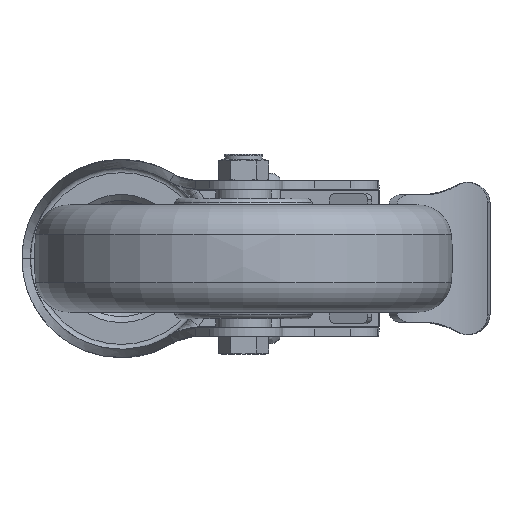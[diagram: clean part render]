
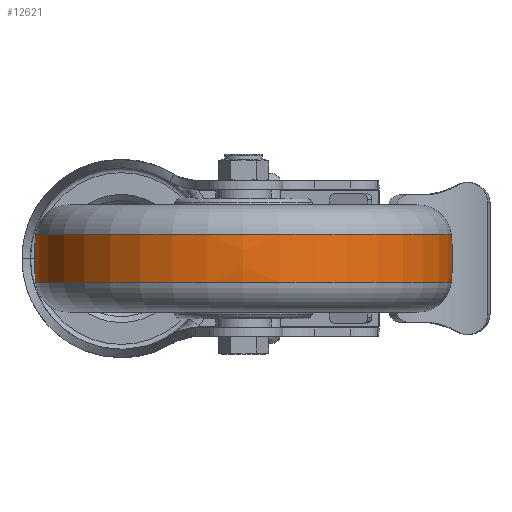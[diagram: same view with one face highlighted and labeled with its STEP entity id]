
A CAD part, front view. The second image highlights one B-rep face of the part: STEP entity #12621.
In plain terms, the highlighted free-form (B-spline) face has degree [3, 3] with [7, 4] control points.
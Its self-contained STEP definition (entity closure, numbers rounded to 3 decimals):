
#12013=CARTESIAN_POINT('',(-7.2,0.,0.));
#12014=DIRECTION('',(-1.,0.,0.));
#12015=DIRECTION('',(0.,1.,0.));
#12016=AXIS2_PLACEMENT_3D('',#12013,#12014,#12015);
#12028=CARTESIAN_POINT('',(0.,2.5,0.));
#12029=DIRECTION('',(0.,0.,1.));
#12030=DIRECTION('',(0.12,0.993,0.));
#12031=AXIS2_PLACEMENT_3D('',#12028,#12029,#12030);
#12033=CARTESIAN_POINT('',(0.,-2.5,0.));
#12034=DIRECTION('',(0.,0.,-1.));
#12035=DIRECTION('',(0.12,-0.993,0.));
#12036=AXIS2_PLACEMENT_3D('',#12033,#12034,#12035);
#12038=CARTESIAN_POINT('',(7.2,0.,0.));
#12039=DIRECTION('',(-1.,0.,0.));
#12040=DIRECTION('',(0.,1.,0.));
#12041=AXIS2_PLACEMENT_3D('',#12038,#12039,#12040);
#12262=CARTESIAN_POINT('',(-7.2,62.066,0.));
#12264=VERTEX_POINT('',#12262);
#12266=CARTESIAN_POINT('',(-7.2,-62.066,
0.));
#12268=VERTEX_POINT('',#12266);
#12295=CARTESIAN_POINT('',(7.2,62.066,0.));
#12297=VERTEX_POINT('',#12295);
#12299=CARTESIAN_POINT('',(7.2,-62.066,
0.));
#12301=VERTEX_POINT('',#12299);
#12585=CARTESIAN_POINT('',(-7.487,-61.909,
3.895));
#12586=CARTESIAN_POINT('',(-2.509,-62.533,
3.934));
#12587=CARTESIAN_POINT('',(2.509,-62.533,
3.934));
#12588=CARTESIAN_POINT('',(7.487,-61.909,
3.895));
#12589=CARTESIAN_POINT('',(-7.487,-64.306,
-34.204));
#12590=CARTESIAN_POINT('',(-2.509,-64.955,
-34.549));
#12591=CARTESIAN_POINT('',(2.509,-64.955,
-34.549));
#12592=CARTESIAN_POINT('',(7.487,-64.306,
-34.204));
#12593=CARTESIAN_POINT('',(-7.487,-38.174,
-62.031));
#12594=CARTESIAN_POINT('',(-2.509,-38.559,
-62.657));
#12595=CARTESIAN_POINT('',(2.509,-38.559,
-62.657));
#12596=CARTESIAN_POINT('',(7.487,-38.174,
-62.031));
#12597=CARTESIAN_POINT('',(-7.487,0.,
-62.031));
#12598=CARTESIAN_POINT('',(-2.509,0.,
-62.657));
#12599=CARTESIAN_POINT('',(2.509,0.,
-62.657));
#12600=CARTESIAN_POINT('',(7.487,0.,
-62.031));
#12601=CARTESIAN_POINT('',(-7.487,38.174,
-62.031));
#12602=CARTESIAN_POINT('',(-2.509,38.559,
-62.657));
#12603=CARTESIAN_POINT('',(2.509,38.559,
-62.657));
#12604=CARTESIAN_POINT('',(7.487,38.174,
-62.031));
#12605=CARTESIAN_POINT('',(-7.487,64.306,
-34.204));
#12606=CARTESIAN_POINT('',(-2.509,64.955,
-34.549));
#12607=CARTESIAN_POINT('',(2.509,64.955,
-34.549));
#12608=CARTESIAN_POINT('',(7.487,64.306,
-34.204));
#12609=CARTESIAN_POINT('',(-7.487,61.909,
3.895));
#12610=CARTESIAN_POINT('',(-2.509,62.533,
3.934));
#12611=CARTESIAN_POINT('',(2.509,62.533,3.934));
#12612=CARTESIAN_POINT('',(7.487,61.909,3.895));
#12613=(BOUNDED_SURFACE()B_SPLINE_SURFACE(3,3,((#12585,#12586,#12587,#12588),(
#12589,#12590,#12591,#12592),(#12593,#12594,#12595,#12596),(#12597,#12598,
#12599,#12600),(#12601,#12602,#12603,#12604),(#12605,#12606,#12607,#12608),(
#12609,#12610,#12611,#12612)),.UNSPECIFIED.,.F.,.F.,.F.)B_SPLINE_SURFACE_WITH_KNOTS((4,3,4),(4,4),(0.,1.,2.),(0.,1.),.UNSPECIFIED.)GEOMETRIC_REPRESENTATION_ITEM()RATIONAL_B_SPLINE_SURFACE(((1.192,1.186,
1.186,1.192),(0.941,0.936,
0.936,0.941),(0.941,0.936,
0.936,0.941),(1.192,1.186,
1.186,1.192),(0.941,0.936,
0.936,0.941),(0.941,0.936,
0.936,0.941),(1.192,1.186,
1.186,1.192)))REPRESENTATION_ITEM('')SURFACE());
#12614=ORIENTED_EDGE('',*,*,#12575,.T.);
#12615=ORIENTED_EDGE('',*,*,#12528,.T.);
#12616=ORIENTED_EDGE('',*,*,#12579,.F.);
#12618=ORIENTED_EDGE('',*,*,#12617,.F.);
#12619=EDGE_LOOP('',(#12614,#12615,#12616,#12618));
#12620=FACE_OUTER_BOUND('',#12619,.F.);
#12017=CIRCLE('',#12016,62.066);
#12032=CIRCLE('',#12031,60.);
#12037=CIRCLE('',#12036,60.);
#12042=CIRCLE('',#12041,62.066);
#12528=EDGE_CURVE('',#12264,#12268,#12017,.T.);
#12575=EDGE_CURVE('',#12297,#12264,#12032,.T.);
#12579=EDGE_CURVE('',#12301,#12268,#12037,.T.);
#12617=EDGE_CURVE('',#12297,#12301,#12042,.T.);
#12621=ADVANCED_FACE('',(#12620),#12613,.T.);
